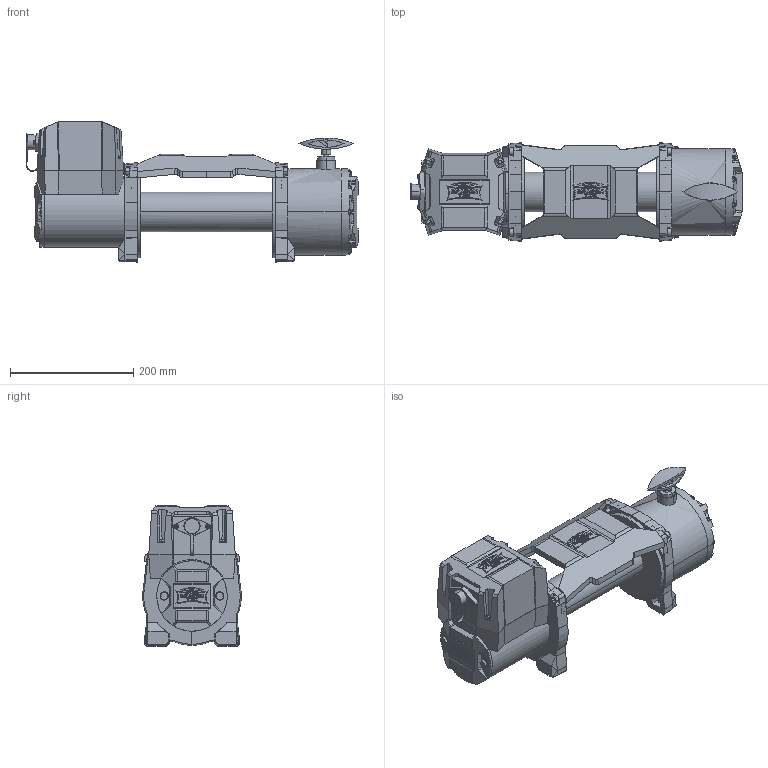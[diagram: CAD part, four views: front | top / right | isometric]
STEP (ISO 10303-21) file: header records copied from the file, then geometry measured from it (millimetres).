
FILE_DESCRIPTION(/* description */ (''),/* implementation_level */ '2;1');
FILE_NAME(/* name */ 'MAVERI~1',/* time_stamp */ '2023-10-27T07:13:54+02:00',/* author */ (''),/* organization */ (''),/* preprocessor_version */ 'ST-DEVELOPER v15',/* originating_system */ '',/* authorisation */ '');
FILE_SCHEMA (('AUTOMOTIVE_DESIGN'));
Products named in the file (1): Document
Bounding box: 537.89 x 159.79 x 227.29 mm (x, y, z)
Volume: 5170943.7 mm3; surface area: 655570.1 mm2
Topology: 29 solids, 33 shells, 2179 faces, 5859 edges, 3711 vertices
Faces by surface type: bspline 1432, plane 747
Entity records: 73382 total; most frequent: CARTESIAN_POINT 40196, ORIENTED_EDGE 11412, EDGE_CURVE 5710, VERTEX_POINT 3709, B_SPLINE_CURVE_WITH_KNOTS 2653, EDGE_LOOP 2313, ADVANCED_FACE 2179, FACE_OUTER_BOUND 2179
